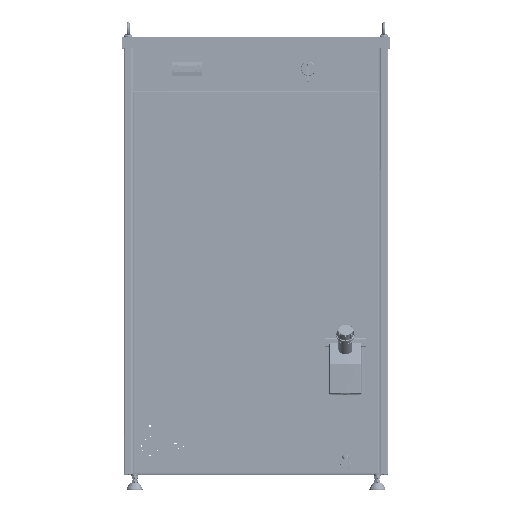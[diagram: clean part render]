
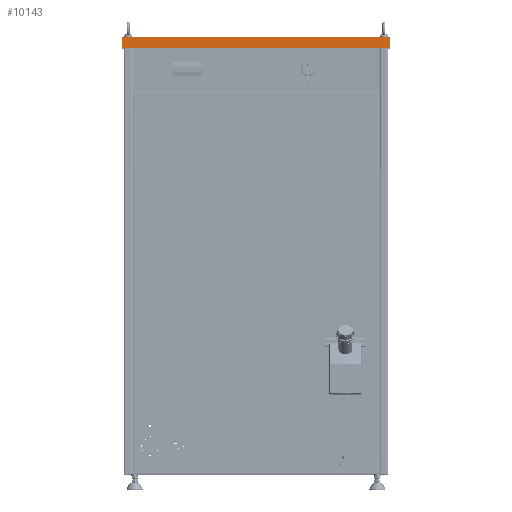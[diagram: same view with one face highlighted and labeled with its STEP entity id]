
A CAD part, top view. The second image highlights one B-rep face of the part: STEP entity #10143.
In plain terms, the highlighted planar face has unit normal (0, 0, 1) as drawn and (0, 1, 0) by its records, which use the part's own axes.
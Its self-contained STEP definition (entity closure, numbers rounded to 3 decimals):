
#579 = CARTESIAN_POINT ( 'NONE',  ( -308.1, 330.5, 30. ) ) ;
#1354 = LINE ( 'NONE', #267132, #180786 ) ;
#2649 = DIRECTION ( 'NONE',  ( -1., 0., 0. ) ) ;
#3872 = DIRECTION ( 'NONE',  ( 1., 0., 0. ) ) ;
#3950 = DIRECTION ( 'NONE',  ( 1., 0., 0. ) ) ;
#4837 = VERTEX_POINT ( 'NONE', #115675 ) ;
#5110 = CARTESIAN_POINT ( 'NONE',  ( 308.1, 330.5, 30. ) ) ;
#7725 = EDGE_CURVE ( 'NONE', #148022, #77061, #168190, .T. ) ;
#10143 = ADVANCED_FACE ( 'NONE', ( #153021 ), #27342, .F. ) ;
#10337 = DIRECTION ( 'NONE',  ( 0., -1., 0. ) ) ;
#12908 = VECTOR ( 'NONE', #104723, 1000. ) ;
#22324 = VECTOR ( 'NONE', #172269, 1000. ) ;
#22979 = ORIENTED_EDGE ( 'NONE', *, *, #58951, .F. ) ;
#24541 = ORIENTED_EDGE ( 'NONE', *, *, #41452, .T. ) ;
#25477 = VECTOR ( 'NONE', #155439, 1000. ) ;
#27291 = EDGE_CURVE ( 'NONE', #158142, #184138, #89150, .T. ) ;
#27342 = PLANE ( 'NONE',  #75165 ) ;
#28943 = CARTESIAN_POINT ( 'NONE',  ( -308.1, 330.5, 27. ) ) ;
#32774 = EDGE_CURVE ( 'NONE', #4837, #208278, #229733, .T. ) ;
#34010 = LINE ( 'NONE', #105302, #266208 ) ;
#34585 = CARTESIAN_POINT ( 'NONE',  ( 335.5, 330.5, 2.4 ) ) ;
#41452 = EDGE_CURVE ( 'NONE', #244746, #121189, #100023, .T. ) ;
#41487 = VECTOR ( 'NONE', #135364, 1000. ) ;
#42014 = CARTESIAN_POINT ( 'NONE',  ( 308.1, 330.5, 27. ) ) ;
#43514 = CARTESIAN_POINT ( 'NONE',  ( 335.5, 330.5, 30. ) ) ;
#45957 = VERTEX_POINT ( 'NONE', #180346 ) ;
#57265 = ORIENTED_EDGE ( 'NONE', *, *, #27291, .F. ) ;
#58951 = EDGE_CURVE ( 'NONE', #131020, #121189, #204631, .T. ) ;
#66049 = EDGE_CURVE ( 'NONE', #141733, #117366, #264225, .T. ) ;
#70962 = VECTOR ( 'NONE', #187172, 1000. ) ;
#75165 = AXIS2_PLACEMENT_3D ( 'NONE', #145033, #10337, #167573 ) ;
#77061 = VERTEX_POINT ( 'NONE', #95934 ) ;
#85222 = LINE ( 'NONE', #43514, #25477 ) ;
#89150 = LINE ( 'NONE', #173235, #22324 ) ;
#93619 = ORIENTED_EDGE ( 'NONE', *, *, #199413, .F. ) ;
#95934 = CARTESIAN_POINT ( 'NONE',  ( 307.5, 330.5, 27.6 ) ) ;
#100023 = LINE ( 'NONE', #114085, #219674 ) ;
#104723 = DIRECTION ( 'NONE',  ( 0., 0., -1. ) ) ;
#105302 = CARTESIAN_POINT ( 'NONE',  ( 307.5, 330.5, 30. ) ) ;
#108032 = EDGE_CURVE ( 'NONE', #208278, #131020, #108292, .T. ) ;
#108292 = LINE ( 'NONE', #579, #41487 ) ;
#109508 = ORIENTED_EDGE ( 'NONE', *, *, #66049, .F. ) ;
#112038 = CARTESIAN_POINT ( 'NONE',  ( -307.5, 330.5, 27.6 ) ) ;
#114085 = CARTESIAN_POINT ( 'NONE',  ( -335.5, 330.5, 2.4 ) ) ;
#115675 = CARTESIAN_POINT ( 'NONE',  ( -307.5, 330.5, 27. ) ) ;
#117366 = VERTEX_POINT ( 'NONE', #138368 ) ;
#121189 = VERTEX_POINT ( 'NONE', #172171 ) ;
#127407 = ORIENTED_EDGE ( 'NONE', *, *, #131361, .F. ) ;
#131020 = VERTEX_POINT ( 'NONE', #211808 ) ;
#131361 = EDGE_CURVE ( 'NONE', #244746, #141733, #173117, .T. ) ;
#132352 = DIRECTION ( 'NONE',  ( -1., 0., 0. ) ) ;
#135125 = CARTESIAN_POINT ( 'NONE',  ( -335.5, 330.5, 2.4 ) ) ;
#135364 = DIRECTION ( 'NONE',  ( 0., 0., 1. ) ) ;
#138368 = CARTESIAN_POINT ( 'NONE',  ( 335.5, 330.5, 30. ) ) ;
#138645 = CARTESIAN_POINT ( 'NONE',  ( 335.5, 330.5, 2.4 ) ) ;
#141733 = VERTEX_POINT ( 'NONE', #34585 ) ;
#145033 = CARTESIAN_POINT ( 'NONE',  ( 335.5, 330.5, 30. ) ) ;
#148022 = VERTEX_POINT ( 'NONE', #112038 ) ;
#153021 = FACE_OUTER_BOUND ( 'NONE', #214399, .T. ) ;
#155439 = DIRECTION ( 'NONE',  ( -1., 0., 0. ) ) ;
#158142 = VERTEX_POINT ( 'NONE', #5110 ) ;
#158919 = CARTESIAN_POINT ( 'NONE',  ( 335.5, 330.5, 27. ) ) ;
#162747 = VECTOR ( 'NONE', #2649, 1000. ) ;
#167573 = DIRECTION ( 'NONE',  ( 0., 0., -1. ) ) ;
#168190 = LINE ( 'NONE', #273492, #280924 ) ;
#172171 = CARTESIAN_POINT ( 'NONE',  ( -335.5, 330.5, 30. ) ) ;
#172269 = DIRECTION ( 'NONE',  ( 0., 0., -1. ) ) ;
#173117 = LINE ( 'NONE', #138645, #285864 ) ;
#173235 = CARTESIAN_POINT ( 'NONE',  ( 308.1, 330.5, 30. ) ) ;
#175778 = ORIENTED_EDGE ( 'NONE', *, *, #7725, .T. ) ;
#180220 = ORIENTED_EDGE ( 'NONE', *, *, #221377, .F. ) ;
#180346 = CARTESIAN_POINT ( 'NONE',  ( 307.5, 330.5, 27. ) ) ;
#180786 = VECTOR ( 'NONE', #132352, 1000. ) ;
#184138 = VERTEX_POINT ( 'NONE', #42014 ) ;
#187172 = DIRECTION ( 'NONE',  ( -1., 0., 0. ) ) ;
#199413 = EDGE_CURVE ( 'NONE', #148022, #4837, #252237, .T. ) ;
#200447 = ORIENTED_EDGE ( 'NONE', *, *, #108032, .F. ) ;
#204374 = VECTOR ( 'NONE', #218238, 1000. ) ;
#204631 = LINE ( 'NONE', #232425, #70962 ) ;
#204808 = ORIENTED_EDGE ( 'NONE', *, *, #239864, .F. ) ;
#208278 = VERTEX_POINT ( 'NONE', #28943 ) ;
#211808 = CARTESIAN_POINT ( 'NONE',  ( -308.1, 330.5, 30. ) ) ;
#213707 = ORIENTED_EDGE ( 'NONE', *, *, #32774, .F. ) ;
#214399 = EDGE_LOOP ( 'NONE', ( #200447, #213707, #93619, #175778, #180220, #277820, #57265, #204808, #109508, #127407, #24541, #22979 ) ) ;
#218238 = DIRECTION ( 'NONE',  ( 0., 0., 1. ) ) ;
#219674 = VECTOR ( 'NONE', #271462, 1000. ) ;
#221377 = EDGE_CURVE ( 'NONE', #45957, #77061, #34010, .T. ) ;
#229733 = LINE ( 'NONE', #158919, #162747 ) ;
#232425 = CARTESIAN_POINT ( 'NONE',  ( 335.5, 330.5, 30. ) ) ;
#239479 = CARTESIAN_POINT ( 'NONE',  ( -307.5, 330.5, 30. ) ) ;
#239864 = EDGE_CURVE ( 'NONE', #117366, #158142, #85222, .T. ) ;
#244746 = VERTEX_POINT ( 'NONE', #135125 ) ;
#252237 = LINE ( 'NONE', #239479, #12908 ) ;
#262556 = CARTESIAN_POINT ( 'NONE',  ( 335.5, 330.5, 2.4 ) ) ;
#263661 = DIRECTION ( 'NONE',  ( 0., 0., 1. ) ) ;
#264225 = LINE ( 'NONE', #262556, #204374 ) ;
#266208 = VECTOR ( 'NONE', #263661, 1000. ) ;
#267132 = CARTESIAN_POINT ( 'NONE',  ( 335.5, 330.5, 27. ) ) ;
#267320 = EDGE_CURVE ( 'NONE', #184138, #45957, #1354, .T. ) ;
#271462 = DIRECTION ( 'NONE',  ( 0., 0., 1. ) ) ;
#273492 = CARTESIAN_POINT ( 'NONE',  ( -307.5, 330.5, 27.6 ) ) ;
#277820 = ORIENTED_EDGE ( 'NONE', *, *, #267320, .F. ) ;
#280924 = VECTOR ( 'NONE', #3950, 1000. ) ;
#285864 = VECTOR ( 'NONE', #3872, 1000. ) ;
